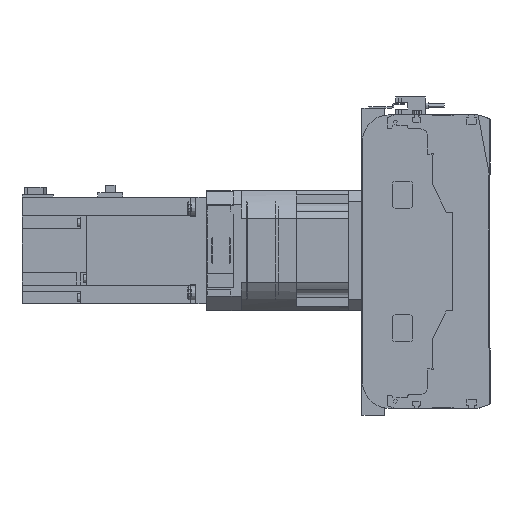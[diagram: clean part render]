
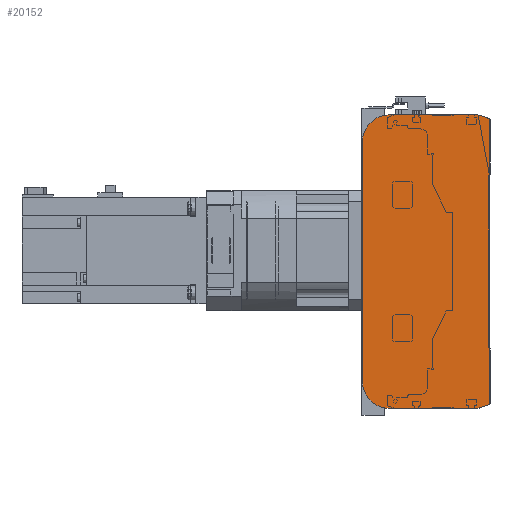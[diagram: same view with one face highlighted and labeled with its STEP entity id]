
A CAD part, left-side view. The second image highlights one B-rep face of the part: STEP entity #20152.
In plain terms, the highlighted planar face has unit normal (-1, 0, 0).
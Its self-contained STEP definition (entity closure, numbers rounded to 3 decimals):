
#1162=CIRCLE('',#21945,20.);
#1163=CIRCLE('',#21948,20.);
#4918=ORIENTED_EDGE('',*,*,#8712,.F.);
#4919=ORIENTED_EDGE('',*,*,#8754,.F.);
#4920=ORIENTED_EDGE('',*,*,#8752,.F.);
#4921=ORIENTED_EDGE('',*,*,#8750,.F.);
#4922=ORIENTED_EDGE('',*,*,#8739,.F.);
#4923=ORIENTED_EDGE('',*,*,#8730,.F.);
#4924=ORIENTED_EDGE('',*,*,#8726,.F.);
#4925=ORIENTED_EDGE('',*,*,#8723,.F.);
#8712=EDGE_CURVE('',#10953,#10954,#12763,.T.);
#8723=EDGE_CURVE('',#10954,#10961,#12774,.T.);
#8726=EDGE_CURVE('',#10961,#10963,#12777,.T.);
#8730=EDGE_CURVE('',#10963,#10964,#12781,.T.);
#8739=EDGE_CURVE('',#10964,#10970,#12790,.T.);
#8750=EDGE_CURVE('',#10970,#10977,#1162,.T.);
#8752=EDGE_CURVE('',#10977,#10978,#12802,.T.);
#8754=EDGE_CURVE('',#10978,#10953,#1163,.T.);
#10953=VERTEX_POINT('',#33499);
#10954=VERTEX_POINT('',#33501);
#10961=VERTEX_POINT('',#33520);
#10963=VERTEX_POINT('',#33526);
#10964=VERTEX_POINT('',#33532);
#10970=VERTEX_POINT('',#33548);
#10977=VERTEX_POINT('',#33567);
#10978=VERTEX_POINT('',#33571);
#12763=LINE('',#33500,#14364);
#12774=LINE('',#33519,#14375);
#12777=LINE('',#33525,#14378);
#12781=LINE('',#33531,#14382);
#12790=LINE('',#33547,#14391);
#12802=LINE('',#33570,#14403);
#14364=VECTOR('',#26512,1000.);
#14375=VECTOR('',#26525,1000.);
#14378=VECTOR('',#26530,1000.);
#14382=VECTOR('',#26536,1000.);
#14391=VECTOR('',#26547,1000.);
#14403=VECTOR('',#26565,1000.);
#15788=EDGE_LOOP('',(#4918,#4919,#4920,#4921,#4922,#4923,#4924,#4925));
#17782=FACE_BOUND('',#15788,.T.);
#19215=PLANE('',#21949);
#20152=ADVANCED_FACE('',(#17782),#19215,.F.);
#21945=AXIS2_PLACEMENT_3D('',#33566,#26560,#26561);
#21948=AXIS2_PLACEMENT_3D('',#33574,#26569,#26570);
#21949=AXIS2_PLACEMENT_3D('',#33575,#26571,#26572);
#26512=DIRECTION('',(0.,-1.,0.));
#26525=DIRECTION('',(0.,-0.945,-0.328));
#26530=DIRECTION('',(0.,0.,-1.));
#26536=DIRECTION('',(0.,0.945,-0.328));
#26547=DIRECTION('',(0.,1.,0.));
#26560=DIRECTION('',(1.,0.,0.));
#26561=DIRECTION('',(0.,0.,-1.));
#26565=DIRECTION('',(0.,0.,1.));
#26569=DIRECTION('',(1.,0.,0.));
#26570=DIRECTION('',(0.,0.,-1.));
#26571=DIRECTION('',(1.,0.,0.));
#26572=DIRECTION('',(0.,0.,-1.));
#33499=CARTESIAN_POINT('',(0.,75.5,110.));
#33500=CARTESIAN_POINT('',(0.,75.5,110.));
#33501=CARTESIAN_POINT('',(0.,9.,110.));
#33519=CARTESIAN_POINT('',(0.,9.,110.));
#33520=CARTESIAN_POINT('',(0.,0.5,107.05));
#33525=CARTESIAN_POINT('',(0.,0.5,107.05));
#33526=CARTESIAN_POINT('',(0.,0.5,-107.05));
#33531=CARTESIAN_POINT('',(0.,0.5,-107.05));
#33532=CARTESIAN_POINT('',(0.,9.,-110.));
#33547=CARTESIAN_POINT('',(0.,9.,-110.));
#33548=CARTESIAN_POINT('',(0.,75.5,-110.));
#33566=CARTESIAN_POINT('',(0.,75.5,-90.));
#33567=CARTESIAN_POINT('',(0.,95.5,-90.));
#33570=CARTESIAN_POINT('',(0.,95.5,-90.));
#33571=CARTESIAN_POINT('',(0.,95.5,90.));
#33574=CARTESIAN_POINT('',(0.,75.5,90.));
#33575=CARTESIAN_POINT('',(0.,75.5,-90.));
